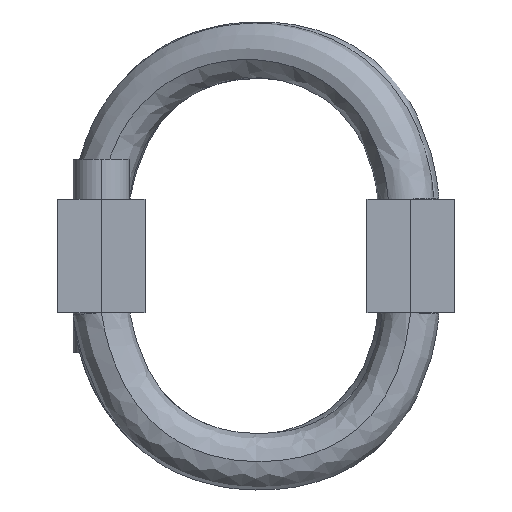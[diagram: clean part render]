
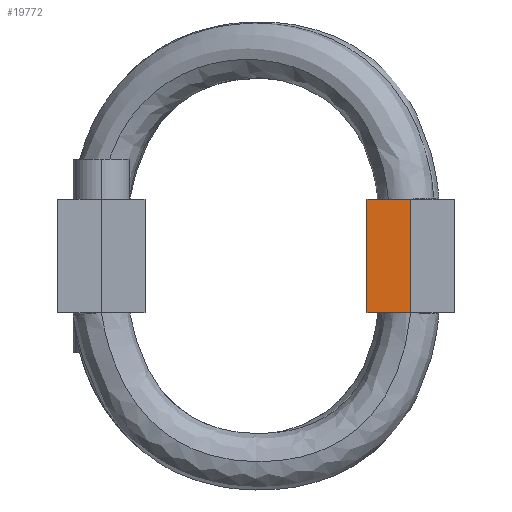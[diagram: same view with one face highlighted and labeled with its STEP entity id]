
A CAD part, left-side view. The second image highlights one B-rep face of the part: STEP entity #19772.
In plain terms, the highlighted planar face has unit normal (-1, 0, 0).
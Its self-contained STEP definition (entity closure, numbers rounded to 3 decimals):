
#325 = VECTOR ( 'NONE', #24874, 1000. ) ;
#373 = VERTEX_POINT ( 'NONE', #3068 ) ;
#1314 = EDGE_CURVE ( 'NONE', #373, #2472, #2488, .T. ) ;
#1473 = CARTESIAN_POINT ( 'NONE',  ( -88.9, -29.8, 0. ) ) ;
#1787 = VERTEX_POINT ( 'NONE', #17686 ) ;
#2472 = VERTEX_POINT ( 'NONE', #27178 ) ;
#2488 = LINE ( 'NONE', #23293, #13051 ) ;
#3068 = CARTESIAN_POINT ( 'NONE',  ( -88.9, -34.7, -12.7 ) ) ;
#4408 = EDGE_CURVE ( 'NONE', #25169, #373, #14927, .T. ) ;
#4799 = ORIENTED_EDGE ( 'NONE', *, *, #24777, .F. ) ;
#5901 = CARTESIAN_POINT ( 'NONE',  ( -88.9, -34.7, -12.7 ) ) ;
#6607 = CARTESIAN_POINT ( 'NONE',  ( -88.9, -34.7, 12.7 ) ) ;
#7815 = DIRECTION ( 'NONE',  ( -1., 0., 0. ) ) ;
#7958 = EDGE_LOOP ( 'NONE', ( #4799, #18606, #10665, #21780 ) ) ;
#8000 = DIRECTION ( 'NONE',  ( 0., 0., -1. ) ) ;
#9046 = AXIS2_PLACEMENT_3D ( 'NONE', #1473, #7815, #22532 ) ;
#9824 = LINE ( 'NONE', #25049, #11132 ) ;
#10665 = ORIENTED_EDGE ( 'NONE', *, *, #1314, .F. ) ;
#11132 = VECTOR ( 'NONE', #14606, 1000. ) ;
#13051 = VECTOR ( 'NONE', #25404, 1000. ) ;
#14606 = DIRECTION ( 'NONE',  ( 0., 0., 1. ) ) ;
#14927 = LINE ( 'NONE', #5901, #26079 ) ;
#15467 = EDGE_CURVE ( 'NONE', #2472, #1787, #9824, .T. ) ;
#17113 = LINE ( 'NONE', #22784, #325 ) ;
#17686 = CARTESIAN_POINT ( 'NONE',  ( -88.9, -24.9, 12.7 ) ) ;
#18606 = ORIENTED_EDGE ( 'NONE', *, *, #15467, .F. ) ;
#19772 = ADVANCED_FACE ( 'NONE', ( #20448 ), #20425, .T. ) ;
#20425 = PLANE ( 'NONE',  #9046 ) ;
#20448 = FACE_OUTER_BOUND ( 'NONE', #7958, .T. ) ;
#21780 = ORIENTED_EDGE ( 'NONE', *, *, #4408, .F. ) ;
#22532 = DIRECTION ( 'NONE',  ( 0., 0., 1. ) ) ;
#22784 = CARTESIAN_POINT ( 'NONE',  ( -88.9, -24.9, 12.7 ) ) ;
#23293 = CARTESIAN_POINT ( 'NONE',  ( -88.9, -24.9, -12.7 ) ) ;
#24777 = EDGE_CURVE ( 'NONE', #1787, #25169, #17113, .T. ) ;
#24874 = DIRECTION ( 'NONE',  ( 0., -1., 0. ) ) ;
#25049 = CARTESIAN_POINT ( 'NONE',  ( -88.9, -24.9, -12.7 ) ) ;
#25169 = VERTEX_POINT ( 'NONE', #6607 ) ;
#25404 = DIRECTION ( 'NONE',  ( 0., 1., 0. ) ) ;
#26079 = VECTOR ( 'NONE', #8000, 1000. ) ;
#27178 = CARTESIAN_POINT ( 'NONE',  ( -88.9, -24.9, -12.7 ) ) ;
